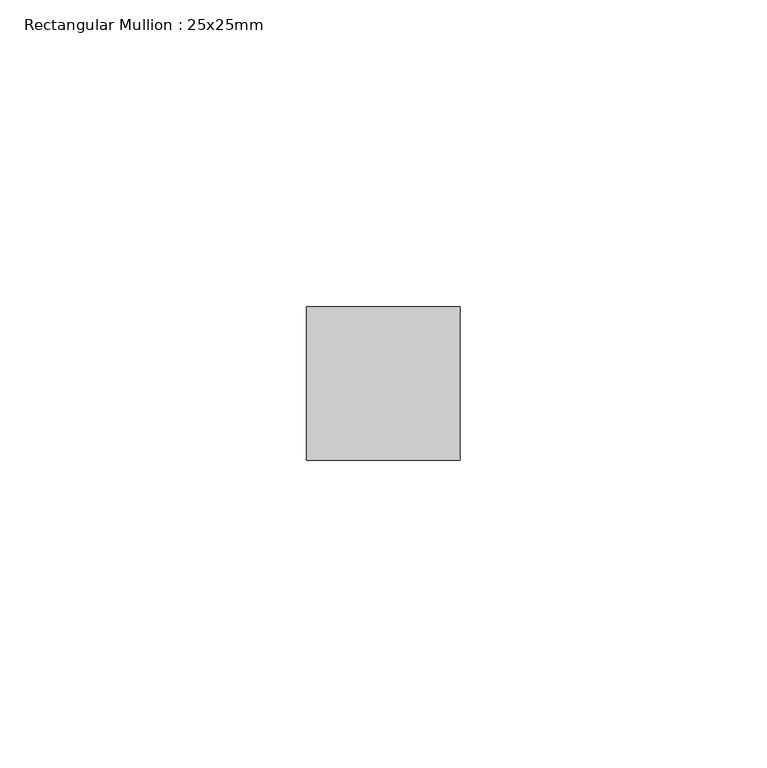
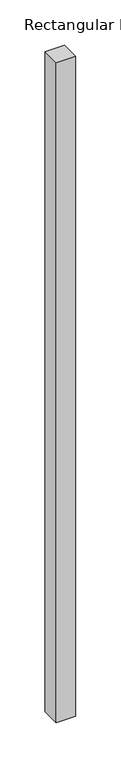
"""IFC4 building model written with IfcOpenShell, lengths in millimetres: member geometry, Rectangular Mullion : 25x25mm."""

from ifc_helpers import new_model, si_unit, frame, origin, place, context, project, spatial, polyline, outline, extrude, source, transform, mapped, element, save


def rectangular_mullion_25x25mm_5747d3e9(model_context):
    return source(origin(), model_context, "Body", "SweptSolid", [
        extrude(outline(polyline([(12.5, 0.5), (12.5, -24.5), (-12.5, -24.5), (-12.5, 0.5), (12.5, 0.5)])), frame((0.0, 0.0, -892.5), z_axis=(0.0, 0.0, 1.0), x_axis=(1.0, 0.0, 0.0)), (0.0, 0.0, 1.0), 892.5),
    ])


if __name__ == "__main__":
    model = new_model("IFC4")
    model_context = context("Model", 3, world=origin())
    ifc_project = project(units=[si_unit("LENGTHUNIT", "METRE", prefix="MILLI")], contexts=[model_context])
    site = spatial("IfcSite", under=ifc_project)
    building = spatial("IfcBuilding", under=site)
    placement = place(None, origin())
    rectangular_mullion_25x25mm_shape = rectangular_mullion_25x25mm_5747d3e9(model_context)
    element("IfcMember", 1, ObjectType="Rectangular Mullion : 25x25mm", at=placement, inside=building, context=model_context, shape_type="MappedRepresentation", body=[
        mapped(rectangular_mullion_25x25mm_shape, transform((0.0, 0.0, 0.0), x_axis=(1.0, 0.0, 0.0), y_axis=(0.0, 1.0, 0.0), z_axis=(0.0, 0.0, 1.0))),
    ])
    save(model, "model.ifc")
